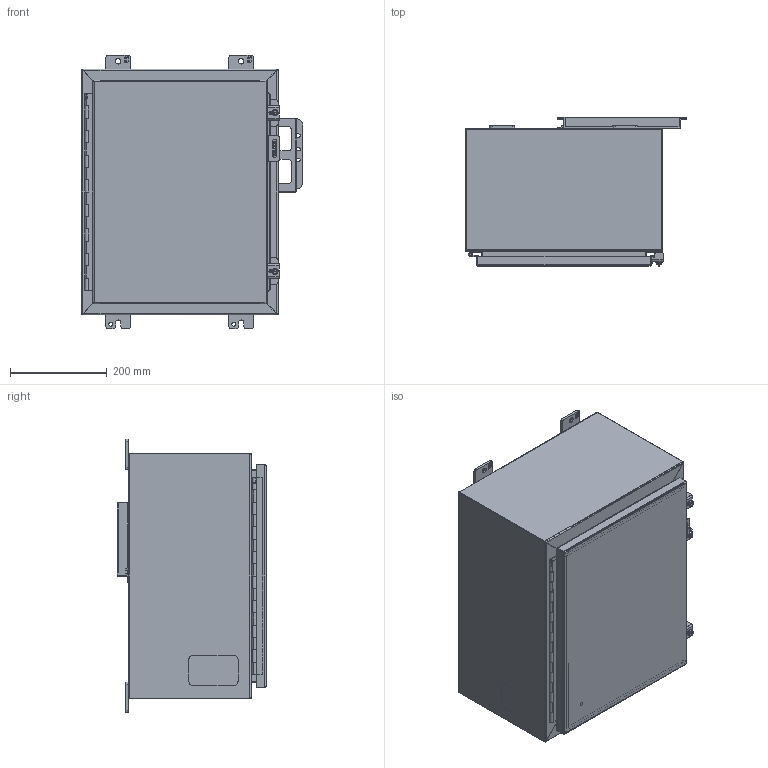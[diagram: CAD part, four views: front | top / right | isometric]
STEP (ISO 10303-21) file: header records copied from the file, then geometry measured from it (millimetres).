
FILE_DESCRIPTION(/* description */ ('Unknown'),/* implementation_level */ '2;1');
FILE_NAME(/* name */ '1418C10LP',/* time_stamp */ '2026-02-20T16:28:42-05:00',/* author */ ('Unknown'),/* organization */ ('Unknown'),/* preprocessor_version */ 'ST-DEVELOPER v18.104',/* originating_system */ 'Solid Edge',/* authorisation */ 'Unknown');
FILE_SCHEMA (('AUTOMOTIVE_DESIGN {1 0 10303 214 3 1 1}'));
Length unit declared in the file: millimetre
Products named in the file (30): 1418C10LP; STD26094; STD21878; COM42780; HNG10620-16P; COM40153-1; COM71780-6; COM40153-2; HNG10620-16C; COM70219_oa_0; PNT11078; COM48451; FET07710; AKT90223; SPR20265; SCC19011; WAF25035; COM42667; KIT90518; WAF25059; NTS166105; LAB30005; BUL10020; QLB30109; PKT99; HNG10620-16B; KIT90256; NTS165305; NTS16535
Assembly tree (40 placements, depth 3):
  1418C10LP
    STD26094  x4
    STD21878
    COM42780  x2
    HNG10620-16P
    COM40153-1
    COM71780-6
      COM40153-2
      HNG10620-16C
      COM71780-6
      STD21878
      COM70219_oa_0
      PNT11078
    COM48451
    FET07710  x4
    AKT90223  x2
      SPR20265
      SCC19011
      WAF25035
      COM42667
    KIT90518
      WAF25059
      NTS166105
      LAB30005
    BUL10020
    QLB30109
    PKT99
    HNG10620-16B
    KIT90256
      LAB30005
      NTS165305
      NTS16535
    PNT11078
Bounding box: 457.2 x 307.98 x 565.15 mm (x, y, z)
Volume: 2094731.3 mm3; surface area: 2231124.8 mm2
Topology: 34 solids, 35 shells, 1157 faces, 2931 edges, 1878 vertices
Faces by surface type: plane 770, cylinder 290, bspline 49, cone 26, torus 20, sphere 2
Full cylindrical faces by diameter (mm): 3.175 x1, 4.763 x1, 4.976 x1, 5.41 x2, 6.198 x2, 6.35 x3, 6.731 x2, 7.137 x2, 7.805 x1, 7.938 x4, 8.382 x4, 9.525 x4, 9.906 x2, 11.113 x4, 11.303 x1, 12.7 x2, 16.51 x4, 25.4 x1, 88.9 x1
Entity records: 28725 total; most frequent: CARTESIAN_POINT 8065, ORIENTED_EDGE 4112, DIRECTION 3887, EDGE_CURVE 2056, LINE 1393, VECTOR 1393, VERTEX_POINT 1321, AXIS2_PLACEMENT_3D 1247
